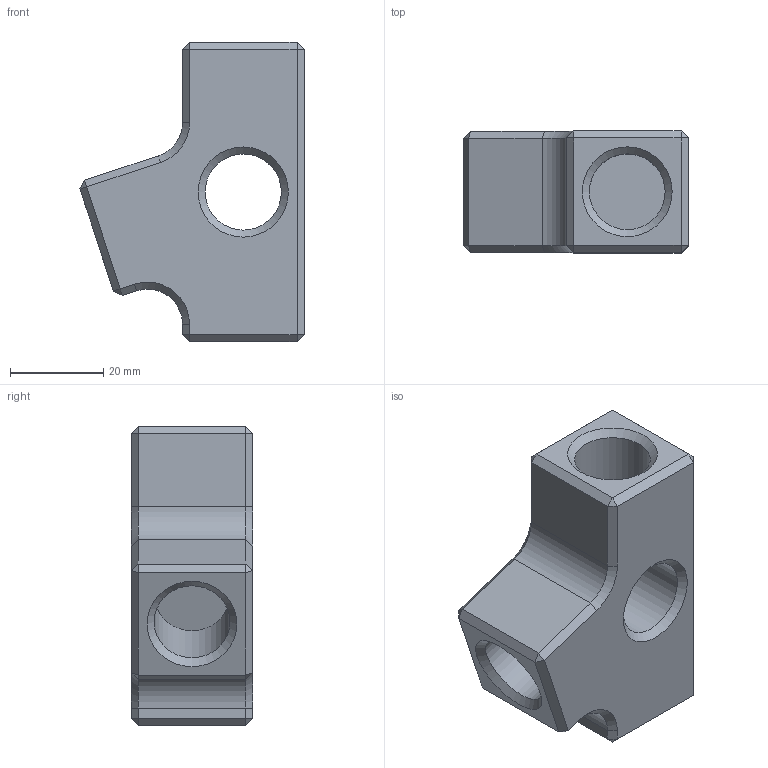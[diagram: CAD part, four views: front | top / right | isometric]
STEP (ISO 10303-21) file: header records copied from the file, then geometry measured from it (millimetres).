
FILE_DESCRIPTION(/* description */ (''),/* implementation_level */ '2;1');
FILE_NAME(/* name */ 'PART-A.step',/* time_stamp */ '2023-04-27T13:21:06+02:00',/* author */ (''),/* organization */ (''),/* preprocessor_version */ 'ST-DEVELOPER v19.2',/* originating_system */ 'Autodesk Translation Framework v11.17.0.187',/* authorisation */ '');
FILE_SCHEMA (('AUTOMOTIVE_DESIGN { 1 0 10303 214 3 1 1 }'));
Length unit declared in the file: millimetre
Products named in the file (1): ZapateroV2
Bounding box: 47.94 x 26 x 63.98 mm (x, y, z)
Volume: 38375.5 mm3; surface area: 13078.8 mm2
Topology: 1 solids, 1 shells, 62 faces, 122 edges, 65 vertices
Faces by surface type: plane 47, cone 9, cylinder 6
Full cylindrical faces by diameter (mm): 16.2 x3, 16.3 x1
Entity records: 1615 total; most frequent: DIRECTION 269, CARTESIAN_POINT 250, ORIENTED_EDGE 244, EDGE_CURVE 122, LINE 101, VECTOR 101, AXIS2_PLACEMENT_3D 84, EDGE_LOOP 67
